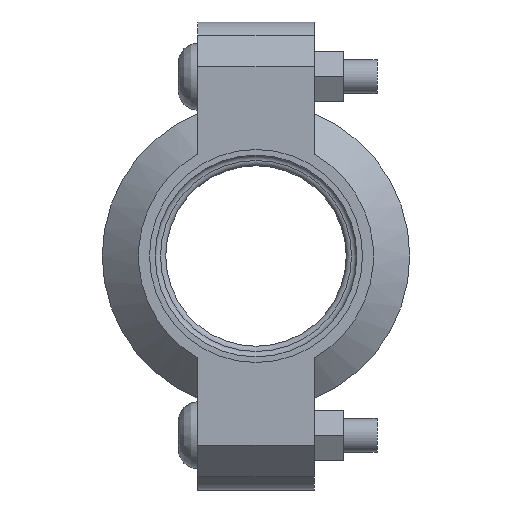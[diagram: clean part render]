
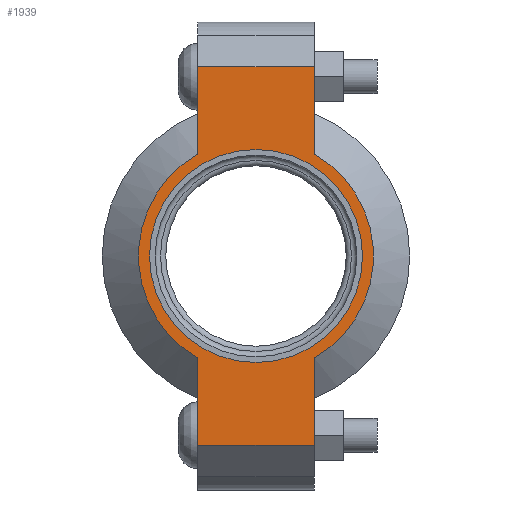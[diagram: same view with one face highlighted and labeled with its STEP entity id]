
A CAD part, left-side view. The second image highlights one B-rep face of the part: STEP entity #1939.
In plain terms, the highlighted planar face has unit normal (-1, 0, 0) as drawn and (0, 0, 1) by its records, which use the part's own axes.
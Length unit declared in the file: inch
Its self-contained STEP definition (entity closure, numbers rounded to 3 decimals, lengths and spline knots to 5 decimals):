
#128=LINE('',#3437,#225);
#136=LINE('',#3473,#233);
#143=LINE('',#3494,#240);
#152=LINE('',#3526,#249);
#153=LINE('',#3530,#250);
#154=LINE('',#3532,#251);
#225=VECTOR('',#2805,0.3937);
#233=VECTOR('',#2821,0.3937);
#240=VECTOR('',#2840,0.3937);
#249=VECTOR('',#2865,0.3937);
#250=VECTOR('',#2870,0.3937);
#251=VECTOR('',#2871,0.3937);
#307=FACE_BOUND('',#557,.T.);
#351=PLANE('',#2278);
#439=FACE_OUTER_BOUND('',#556,.T.);
#556=EDGE_LOOP('',(#1660,#1661,#1662,#1663,#1664,#1665,#1666,#1667));
#557=EDGE_LOOP('',(#1668));
#729=CIRCLE('',#2279,1.31);
#730=CIRCLE('',#2280,1.31);
#731=CIRCLE('',#2281,1.1875);
#893=VERTEX_POINT('',#3434);
#894=VERTEX_POINT('',#3436);
#905=VERTEX_POINT('',#3468);
#906=VERTEX_POINT('',#3472);
#913=VERTEX_POINT('',#3491);
#914=VERTEX_POINT('',#3493);
#924=VERTEX_POINT('',#3529);
#925=VERTEX_POINT('',#3531);
#926=VERTEX_POINT('',#3534);
#1138=EDGE_CURVE('',#894,#893,#128,.T.);
#1152=EDGE_CURVE('',#906,#905,#136,.T.);
#1162=EDGE_CURVE('',#914,#913,#143,.T.);
#1177=EDGE_CURVE('',#906,#893,#152,.T.);
#1178=EDGE_CURVE('',#905,#914,#729,.T.);
#1179=EDGE_CURVE('',#924,#913,#153,.T.);
#1180=EDGE_CURVE('',#924,#925,#154,.T.);
#1181=EDGE_CURVE('',#925,#894,#730,.T.);
#1182=EDGE_CURVE('',#926,#926,#731,.T.);
#1660=ORIENTED_EDGE('',*,*,#1177,.F.);
#1661=ORIENTED_EDGE('',*,*,#1152,.T.);
#1662=ORIENTED_EDGE('',*,*,#1178,.T.);
#1663=ORIENTED_EDGE('',*,*,#1162,.T.);
#1664=ORIENTED_EDGE('',*,*,#1179,.F.);
#1665=ORIENTED_EDGE('',*,*,#1180,.T.);
#1666=ORIENTED_EDGE('',*,*,#1181,.T.);
#1667=ORIENTED_EDGE('',*,*,#1138,.T.);
#1668=ORIENTED_EDGE('',*,*,#1182,.T.);
#1939=ADVANCED_FACE('',(#439,#307),#351,.T.);
#2278=AXIS2_PLACEMENT_3D('',#3527,#2866,#2867);
#2279=AXIS2_PLACEMENT_3D('',#3528,#2868,#2869);
#2280=AXIS2_PLACEMENT_3D('',#3533,#2872,#2873);
#2281=AXIS2_PLACEMENT_3D('',#3535,#2874,#2875);
#2805=DIRECTION('',(1.,0.,0.));
#2821=DIRECTION('',(-1.,0.,0.));
#2840=DIRECTION('',(-1.,0.,0.));
#2865=DIRECTION('',(0.,-1.,0.));
#2866=DIRECTION('center_axis',(0.,0.,1.));
#2867=DIRECTION('ref_axis',(-1.,0.,0.));
#2868=DIRECTION('center_axis',(0.,0.,1.));
#2869=DIRECTION('ref_axis',(1.,0.,0.));
#2870=DIRECTION('',(0.,1.,0.));
#2871=DIRECTION('',(1.,0.,0.));
#2872=DIRECTION('center_axis',(0.,0.,1.));
#2873=DIRECTION('ref_axis',(1.,0.,0.));
#2874=DIRECTION('center_axis',(0.,0.,-1.));
#2875=DIRECTION('ref_axis',(1.,0.,0.));
#3434=CARTESIAN_POINT('',(2.11,-0.65,0.94));
#3436=CARTESIAN_POINT('',(1.13737,-0.65,0.94));
#3437=CARTESIAN_POINT('',(2.61,-0.65,0.94));
#3468=CARTESIAN_POINT('',(1.13737,0.65,0.94));
#3472=CARTESIAN_POINT('',(2.11,0.65,0.94));
#3473=CARTESIAN_POINT('',(-2.61,0.65,0.94));
#3491=CARTESIAN_POINT('',(-2.11,0.65,0.94));
#3493=CARTESIAN_POINT('',(-1.13737,0.65,0.94));
#3494=CARTESIAN_POINT('',(-2.61,0.65,0.94));
#3526=CARTESIAN_POINT('',(2.11,-0.325,0.94));
#3527=CARTESIAN_POINT('Origin',(0.,0.,
0.94));
#3528=CARTESIAN_POINT('Origin',(0.,0.,0.94));
#3529=CARTESIAN_POINT('',(-2.11,-0.65,0.94));
#3530=CARTESIAN_POINT('',(-2.11,0.325,0.94));
#3531=CARTESIAN_POINT('',(-1.13737,-0.65,0.94));
#3532=CARTESIAN_POINT('',(2.61,-0.65,0.94));
#3533=CARTESIAN_POINT('Origin',(0.,0.,0.94));
#3534=CARTESIAN_POINT('',(-1.1875,0.,0.94));
#3535=CARTESIAN_POINT('Origin',(0.,0.,0.94));
